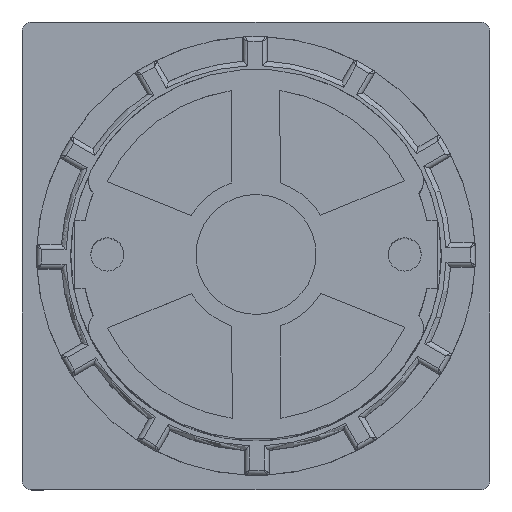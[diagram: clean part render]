
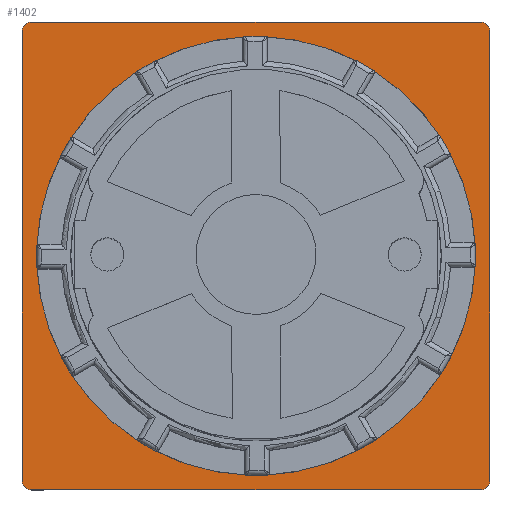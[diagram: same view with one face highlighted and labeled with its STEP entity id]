
A CAD part, top view. The second image highlights one B-rep face of the part: STEP entity #1402.
In plain terms, the highlighted planar face has unit normal (0, 0, 1).
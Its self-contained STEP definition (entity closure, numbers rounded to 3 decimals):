
#1402=ADVANCED_FACE('',(#6291,#6292),#2280,.F.);
#2280=PLANE('',#17990);
#3128=LINE('',#25789,#4658);
#3129=LINE('',#25794,#4659);
#3130=LINE('',#25798,#4660);
#3131=LINE('',#25802,#4661);
#4658=VECTOR('',#20112,1.);
#4659=VECTOR('',#20115,1.);
#4660=VECTOR('',#20118,1.);
#4661=VECTOR('',#20121,1.);
#6291=FACE_BOUND('',#6751,.T.);
#6292=FACE_BOUND('',#6752,.T.);
#6751=EDGE_LOOP('',(#8481,#8482,#8483,#8484,#8485,#8486,#8487,#8488));
#6752=EDGE_LOOP('',(#8489));
#8481=ORIENTED_EDGE('',*,*,#14930,.F.);
#8482=ORIENTED_EDGE('',*,*,#14931,.F.);
#8483=ORIENTED_EDGE('',*,*,#14932,.F.);
#8484=ORIENTED_EDGE('',*,*,#14933,.F.);
#8485=ORIENTED_EDGE('',*,*,#14934,.F.);
#8486=ORIENTED_EDGE('',*,*,#14935,.F.);
#8487=ORIENTED_EDGE('',*,*,#14936,.F.);
#8488=ORIENTED_EDGE('',*,*,#14937,.F.);
#8489=ORIENTED_EDGE('',*,*,#14892,.T.);
#13056=VERTEX_POINT('',#25694);
#13074=VERTEX_POINT('',#25790);
#13075=VERTEX_POINT('',#25791);
#13076=VERTEX_POINT('',#25793);
#13077=VERTEX_POINT('',#25795);
#13078=VERTEX_POINT('',#25797);
#13079=VERTEX_POINT('',#25799);
#13080=VERTEX_POINT('',#25801);
#13081=VERTEX_POINT('',#25803);
#14892=EDGE_CURVE('',#13056,#13056,#17158,.T.);
#14930=EDGE_CURVE('',#13074,#13075,#3128,.T.);
#14931=EDGE_CURVE('',#13076,#13074,#17188,.T.);
#14932=EDGE_CURVE('',#13077,#13076,#3129,.T.);
#14933=EDGE_CURVE('',#13078,#13077,#17189,.T.);
#14934=EDGE_CURVE('',#13079,#13078,#3130,.T.);
#14935=EDGE_CURVE('',#13080,#13079,#17190,.T.);
#14936=EDGE_CURVE('',#13081,#13080,#3131,.T.);
#14937=EDGE_CURVE('',#13075,#13081,#17191,.T.);
#17158=CIRCLE('',#17948,22.5);
#17188=CIRCLE('',#17986,1.);
#17189=CIRCLE('',#17987,1.);
#17190=CIRCLE('',#17988,1.);
#17191=CIRCLE('',#17989,1.);
#17948=AXIS2_PLACEMENT_3D('',#25693,#20028,#20029);
#17986=AXIS2_PLACEMENT_3D('',#25792,#20113,#20114);
#17987=AXIS2_PLACEMENT_3D('',#25796,#20116,#20117);
#17988=AXIS2_PLACEMENT_3D('',#25800,#20119,#20120);
#17989=AXIS2_PLACEMENT_3D('',#25804,#20122,#20123);
#17990=AXIS2_PLACEMENT_3D('',#25805,#20124,#20125);
#20028=DIRECTION('',(0.,0.,-1.));
#20029=DIRECTION('',(0.,1.,0.));
#20112=DIRECTION('',(0.,1.,0.));
#20113=DIRECTION('',(0.,0.,-1.));
#20114=DIRECTION('',(1.,0.,0.));
#20115=DIRECTION('',(-1.,0.,0.));
#20116=DIRECTION('',(0.,0.,-1.));
#20117=DIRECTION('',(1.,0.,0.));
#20118=DIRECTION('',(0.,-1.,0.));
#20119=DIRECTION('',(0.,0.,-1.));
#20120=DIRECTION('',(1.,0.,0.));
#20121=DIRECTION('',(1.,0.,0.));
#20122=DIRECTION('',(0.,0.,-1.));
#20123=DIRECTION('',(1.,0.,0.));
#20124=DIRECTION('',(0.,0.,-1.));
#20125=DIRECTION('',(-1.,0.,0.));
#25693=CARTESIAN_POINT('',(0.,0.,-18.4));
#25694=CARTESIAN_POINT('',(0.,22.5,-18.4));
#25789=CARTESIAN_POINT('',(-24.,-23.,-18.4));
#25790=CARTESIAN_POINT('',(-24.,-23.,-18.4));
#25791=CARTESIAN_POINT('',(-24.,23.,-18.4));
#25792=CARTESIAN_POINT('',(-23.,-23.,-18.4));
#25793=CARTESIAN_POINT('',(-23.,-24.,-18.4));
#25794=CARTESIAN_POINT('',(23.,-24.,-18.4));
#25795=CARTESIAN_POINT('',(23.,-24.,-18.4));
#25796=CARTESIAN_POINT('',(23.,-23.,-18.4));
#25797=CARTESIAN_POINT('',(24.,-23.,-18.4));
#25798=CARTESIAN_POINT('',(24.,23.,-18.4));
#25799=CARTESIAN_POINT('',(24.,23.,-18.4));
#25800=CARTESIAN_POINT('',(23.,23.,-18.4));
#25801=CARTESIAN_POINT('',(23.,24.,-18.4));
#25802=CARTESIAN_POINT('',(-23.,24.,-18.4));
#25803=CARTESIAN_POINT('',(-23.,24.,-18.4));
#25804=CARTESIAN_POINT('',(-23.,23.,-18.4));
#25805=CARTESIAN_POINT('',(-23.,23.,-18.4));
